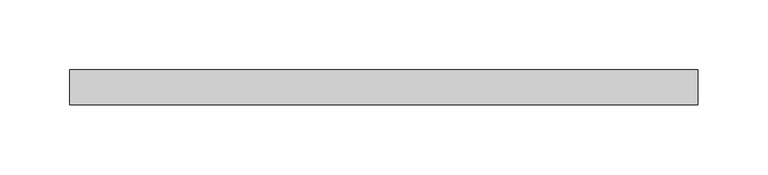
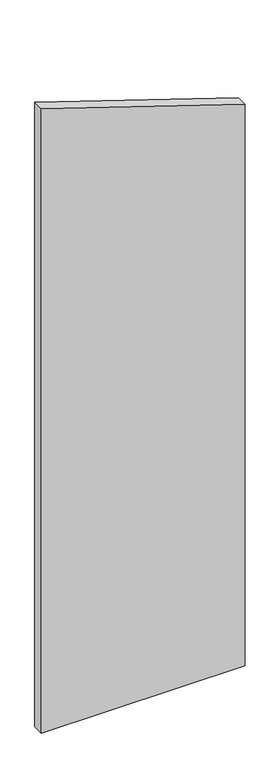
"""IFC4 building model written with IfcOpenShell, lengths in millimetres: plate geometry, Системная панель : ADSK_Cтеклопакет_25 мм."""

from ifc_helpers import new_model, si_unit, frame, origin, place, context, project, spatial, polyline, outline, extrude, source, transform, mapped, element, save


def plate_495b3162(model_context):
    return source(origin(), model_context, "Body", "SweptSolid", [
        extrude(outline(polyline([(0.0, -225.0), (0.0, 225.0), (1311.560393, 225.0), (1457.7742563, -225.0), (0.0, -225.0)])), frame((0.0, -12.5, 0.0), z_axis=(0.0, 1.0, 0.0), x_axis=(0.0, 0.0, 1.0)), (0.0, 0.0, 1.0), 25.0),
    ])


if __name__ == "__main__":
    model = new_model("IFC4")
    model_context = context("Model", 3, world=origin())
    ifc_project = project(units=[si_unit("LENGTHUNIT", "METRE", prefix="MILLI")], contexts=[model_context])
    site = spatial("IfcSite", under=ifc_project)
    building = spatial("IfcBuilding", under=site)
    placement = place(None, origin())
    plate_shape = plate_495b3162(model_context)
    element("IfcPlate", 1, ObjectType="Системная панель : ADSK_Cтеклопакет_25 мм", at=placement, inside=building, context=model_context, shape_type="MappedRepresentation", body=[
        mapped(plate_shape, transform((0.0, 0.0, 0.0), x_axis=(1.0, 0.0, 0.0), y_axis=(0.0, 1.0, 0.0), z_axis=(0.0, 0.0, 1.0))),
    ])
    save(model, "model.ifc")
